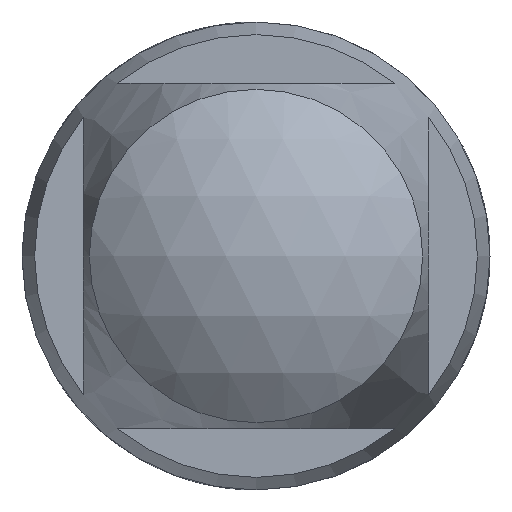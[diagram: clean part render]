
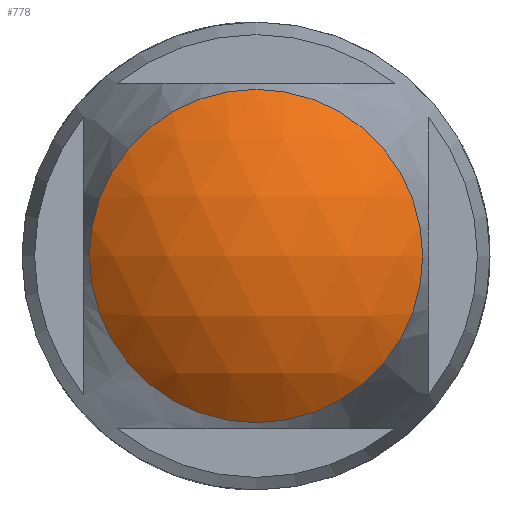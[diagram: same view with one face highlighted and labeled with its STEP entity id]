
A CAD part, front view. The second image highlights one B-rep face of the part: STEP entity #778.
In plain terms, the highlighted spherical face has radius 8.04 mm.
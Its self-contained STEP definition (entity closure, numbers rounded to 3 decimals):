
#19=SPHERICAL_SURFACE('',#861,8.039);
#263=FACE_OUTER_BOUND('',#324,.T.);
#324=EDGE_LOOP('',(#705));
#364=CIRCLE('',#862,5.306);
#434=VERTEX_POINT('',#1514);
#532=EDGE_CURVE('',#434,#434,#364,.T.);
#705=ORIENTED_EDGE('',*,*,#532,.F.);
#778=ADVANCED_FACE('',(#263),#19,.T.);
#861=AXIS2_PLACEMENT_3D('',#1513,#1073,#1074);
#862=AXIS2_PLACEMENT_3D('',#1515,#1075,#1076);
#1073=DIRECTION('center_axis',(0.,0.,1.));
#1074=DIRECTION('ref_axis',(1.,0.,0.));
#1075=DIRECTION('center_axis',(0.,1.,0.));
#1076=DIRECTION('ref_axis',(-1.,0.,0.));
#1513=CARTESIAN_POINT('Origin',(0.,-34.961,
0.));
#1514=CARTESIAN_POINT('',(-5.306,-41.,0.));
#1515=CARTESIAN_POINT('Origin',(0.,-41.,0.));
